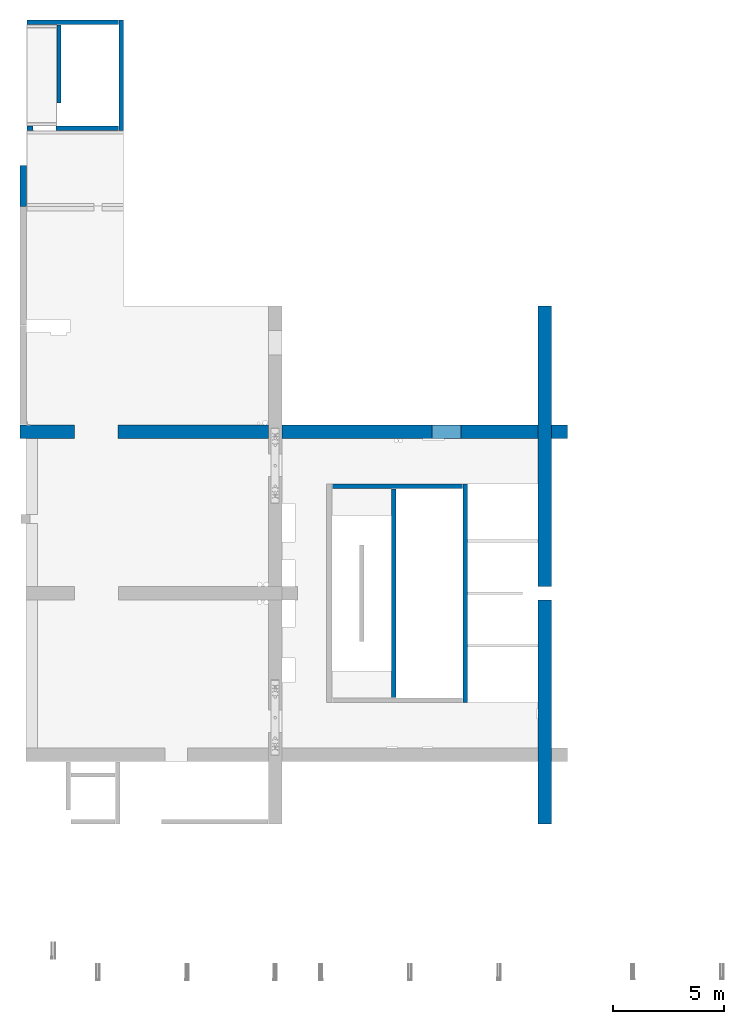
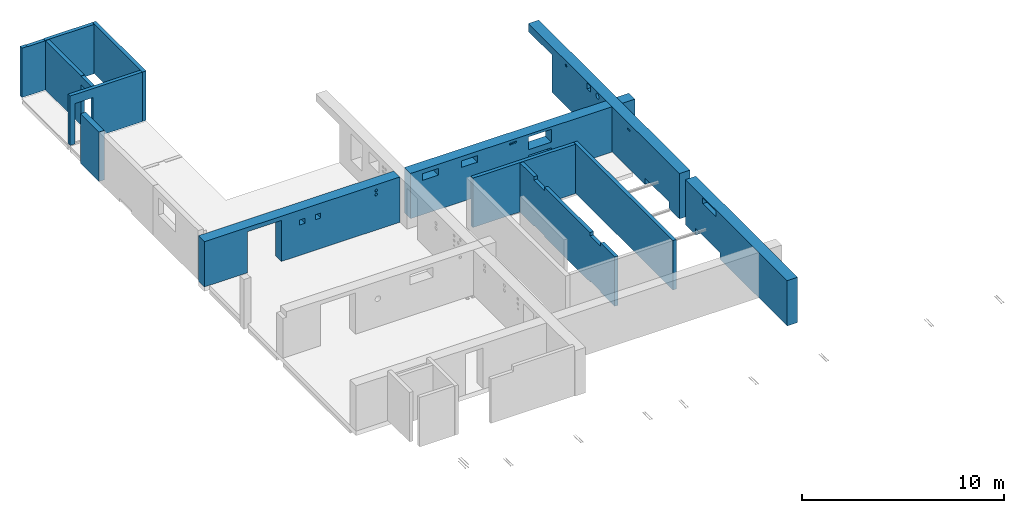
# One storey, part 5 of 8: 10 walls, 33 openings.
"""IFC2X3 building model written with IfcOpenShell, lengths in millimetres."""

from ifc_helpers import new_model, entity, si_unit, converted_unit, derived_unit, direction, frame, frame_2d, origin, origin_2d_with_axis, place, context, subcontext, project, spatial, rectangle, circle, extrude, faceted_brep, material, layer, layer_set, layer_usage, type_object, element, save


model = new_model("IFC2X3")

# Units and contexts
model_context = context("Model", 3, precision=0.01, world=origin(), true_north=direction((6.12303176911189e-17, 1.0)))
body_context = subcontext(model_context, "Body", "Model", "MODEL_VIEW")
ifc_project = project(units=[si_unit("LENGTHUNIT", "METRE", prefix="MILLI"), si_unit("AREAUNIT", "SQUARE_METRE"), si_unit("VOLUMEUNIT", "CUBIC_METRE"), converted_unit("PLANEANGLEUNIT", "DEGREE", entity("IfcRatioMeasure", 0.0174532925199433), si_unit("PLANEANGLEUNIT", "RADIAN"), dimensions=[0, 0, 0, 0, 0, 0, 0]), si_unit("MASSUNIT", "GRAM", prefix="KILO"), derived_unit("MASSDENSITYUNIT", [(si_unit("MASSUNIT", "GRAM", prefix="KILO"), 1), (si_unit("LENGTHUNIT", "METRE"), -3)]), si_unit("TIMEUNIT", "SECOND"), si_unit("FREQUENCYUNIT", "HERTZ"), si_unit("THERMODYNAMICTEMPERATUREUNIT", "DEGREE_CELSIUS"), derived_unit("THERMALTRANSMITTANCEUNIT", [(si_unit("MASSUNIT", "GRAM", prefix="KILO"), 1), (si_unit("THERMODYNAMICTEMPERATUREUNIT", "KELVIN"), -1), (si_unit("TIMEUNIT", "SECOND"), -3)]), derived_unit("VOLUMETRICFLOWRATEUNIT", [(si_unit("LENGTHUNIT", "METRE"), 3), (si_unit("TIMEUNIT", "SECOND"), -1)]), si_unit("ELECTRICCURRENTUNIT", "AMPERE"), si_unit("ELECTRICVOLTAGEUNIT", "VOLT"), si_unit("POWERUNIT", "WATT"), si_unit("FORCEUNIT", "NEWTON", prefix="KILO"), si_unit("ILLUMINANCEUNIT", "LUX"), si_unit("LUMINOUSFLUXUNIT", "LUMEN"), si_unit("LUMINOUSINTENSITYUNIT", "CANDELA"), derived_unit("USERDEFINED", [(si_unit("MASSUNIT", "GRAM", prefix="KILO"), -1), (si_unit("LENGTHUNIT", "METRE"), -2), (si_unit("TIMEUNIT", "SECOND"), 3), (si_unit("LUMINOUSFLUXUNIT", "LUMEN"), 1)]), derived_unit("LINEARVELOCITYUNIT", [(si_unit("LENGTHUNIT", "METRE"), 1), (si_unit("TIMEUNIT", "SECOND"), -1)]), si_unit("PRESSUREUNIT", "PASCAL"), derived_unit("USERDEFINED", [(si_unit("LENGTHUNIT", "METRE"), -2), (si_unit("MASSUNIT", "GRAM", prefix="KILO"), 1), (si_unit("TIMEUNIT", "SECOND"), -2)])], contexts=[model_context])

# Site, building, storey
site_placement = place(None, origin())
site = spatial("IfcSite", under=ifc_project, at=site_placement, Name="Default", CompositionType="ELEMENT")
building_placement = place(site_placement, origin())
building = spatial("IfcBuilding", under=site, at=building_placement, Name="niet gebruiken", CompositionType="ELEMENT")
storey_placement = place(building_placement, frame((0.0, 0.0, 3000.0)))
storey = spatial("IfcBuildingStorey", under=building, at=storey_placement, Name="00a eerste tussenverdieping", CompositionType="ELEMENT", Elevation=3000.00000000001)

# Wall, openings
ifc_material_1 = material(Name="NLRS_f2_beton ihwg")
ifc_layer_1 = layer(ifc_material_1, 600.0)
ifc_layer_set_1 = layer_set([ifc_layer_1], Name="Basic Wall:NLRS_22.21_WA_beton ihwg d=600_gen")
ifc_layer_usage_1 = layer_usage(ifc_layer_set_1, "AXIS2", "NEGATIVE", 300.0)
wall_type_1 = type_object("IfcWallType", Name="Basic Wall:NLRS_22.21_WA_beton ihwg d=600_gen", PredefinedType="STANDARD", material=ifc_layer_set_1)
wall_1_placement = place(storey_placement, frame((124250.0, 24750.0, -90.0)))
wall_1 = element("IfcWallStandardCase", 1, at=wall_1_placement, inside=storey, type_object=wall_type_1, material=ifc_layer_usage_1, Name="Basic Wall:NLRS_22.21_WA_beton ihwg d=600_gen", ObjectType="Basic Wall:NLRS_22.21_WA_beton ihwg d=600_gen", context=body_context, shape_type="SweptSolid", body=[
    extrude(rectangle(XDim=24564.0, YDim=600.000000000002, at=frame_2d((12282.0, 0.0), x_axis=(-1.0, 0.0))), origin(), (0.0, 0.0, 1.0), 2730.0),
])
opening_1_placement = place(storey_placement, frame((124250.0, 24750.0, -90.0)))
element("IfcOpeningElement", 2, at=opening_1_placement, cuts=wall_1, Name="Basic Wall:NLRS_22.21_WA_beton ihwg d=600_gen:1", ObjectType="Opening", context=body_context, shape_type="SweptSolid", body=[
    extrude(rectangle(XDim=2730.0, YDim=599.999999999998, at=origin_2d_with_axis()), frame((11150.0, 0.0, 1365.0), z_axis=(1.0, 0.0, 0.0), x_axis=(0.0, 0.0, -1.0)), (0.0, 0.0, 1.0), 600.000000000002),
])
opening_2_placement = place(storey_placement, frame((124250.0, 24750.0, -90.0)))
element("IfcOpeningElement", 3, at=opening_2_placement, cuts=wall_1, Name="Basic Wall:NLRS_22.21_WA_beton ihwg d=600_gen:2", ObjectType="Opening", context=body_context, shape_type="SweptSolid", body=[
    extrude(rectangle(XDim=2730.0, YDim=599.999999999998, at=frame_2d((0.0, 2.1600499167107e-12), x_axis=(1.0, 0.0))), frame((23250.0, 0.0, 1365.0), z_axis=(1.0, 0.0, 0.0), x_axis=(0.0, 0.0, -1.0)), (0.0, 0.0, 1.0), 600.000000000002),
])
opening_3_placement = place(wall_1_placement, origin())
element("IfcOpeningElement", 4, at=opening_3_placement, cuts=wall_1, Name="Basic Wall:NLRS_22.21_WA_beton ihwg d=600_gen", ObjectType="Opening", context=body_context, shape_type="SweptSolid", body=[
    extrude(rectangle(XDim=2475.0, YDim=1952.00000000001, at=frame_2d((0.0, -1.73372427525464e-11), x_axis=(1.0, 0.0))), frame((3416.0, -300.0, 1237.5), z_axis=(0.0, 1.0, 0.0), x_axis=(0.0, 0.0, -1.0)), (0.0, 0.0, 1.0), 600.000000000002),
])
opening_4_placement = place(wall_1_placement, origin())
element("IfcOpeningElement", 5, at=opening_4_placement, cuts=wall_1, Name="Basic Wall:NLRS_22.21_WA_beton ihwg d=600_gen", ObjectType="Opening", context=body_context, shape_type="SweptSolid", body=[
    extrude(circle(Radius=62.5, at=origin_2d_with_axis()), frame((17740.0, -300.0, 2520.0), z_axis=(0.0, 1.0, 0.0), x_axis=(1.0, 0.0, 0.0)), (0.0, 0.0, 1.0), 600.000000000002),
])
opening_5_placement = place(wall_1_placement, origin())
element("IfcOpeningElement", 6, at=opening_5_placement, cuts=wall_1, Name="Basic Wall:NLRS_22.21_WA_beton ihwg d=600_gen", ObjectType="Opening", context=body_context, shape_type="SweptSolid", body=[
    extrude(circle(Radius=62.5, at=origin_2d_with_axis()), frame((17450.0, -300.0, 2520.0), z_axis=(0.0, 1.0, 0.0), x_axis=(1.0, 0.0, 0.0)), (0.0, 0.0, 1.0), 600.000000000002),
])
opening_6_placement = place(wall_1_placement, origin())
element("IfcOpeningElement", 7, at=opening_6_placement, cuts=wall_1, Name="Basic Wall:NLRS_22.21_WA_beton ihwg d=600_gen", ObjectType="Opening", context=body_context, shape_type="SweptSolid", body=[
    extrude(circle(Radius=62.5, at=origin_2d_with_axis()), frame((17595.0, -300.0, 2520.0), z_axis=(0.0, 1.0, 0.0), x_axis=(1.0, 0.0, 0.0)), (0.0, 0.0, 1.0), 600.000000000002),
])
opening_7_placement = place(wall_1_placement, origin())
element("IfcOpeningElement", 8, at=opening_7_placement, cuts=wall_1, Name="Basic Wall:NLRS_22.21_WA_beton ihwg d=600_gen", ObjectType="Opening", context=body_context, shape_type="SweptSolid", body=[
    extrude(rectangle(XDim=400.0, YDim=900.000000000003, at=origin_2d_with_axis()), frame((15115.0, -300.0, 2275.0), z_axis=(0.0, 1.0, 0.0), x_axis=(0.0, 0.0, -1.0)), (0.0, 0.0, 1.0), 600.000000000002),
])
opening_8_placement = place(wall_1_placement, origin())
element("IfcOpeningElement", 9, at=opening_8_placement, cuts=wall_1, Name="Basic Wall:NLRS_22.21_WA_beton ihwg d=600_gen", ObjectType="Opening", context=body_context, shape_type="SweptSolid", body=[
    extrude(rectangle(XDim=400.0, YDim=900.000000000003, at=origin_2d_with_axis()), frame((12900.0, -300.0, 2275.0), z_axis=(0.0, 1.0, 0.0), x_axis=(0.0, 0.0, -1.0)), (0.0, 0.0, 1.0), 600.000000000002),
])
opening_9_placement = place(wall_1_placement, origin())
element("IfcOpeningElement", 10, at=opening_9_placement, cuts=wall_1, Name="Basic Wall:NLRS_22.21_WA_beton ihwg d=600_gen", ObjectType="Opening", context=body_context, shape_type="SweptSolid", body=[
    extrude(rectangle(XDim=775.0, YDim=1300.0, at=frame_2d((-5.40012479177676e-13, 8.69704308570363e-12), x_axis=(1.0, 0.0))), frame((19140.0, -300.0, 2192.5), z_axis=(0.0, 1.0, 0.0), x_axis=(0.0, 0.0, -1.0)), (0.0, 0.0, 1.0), 600.000000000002),
])
opening_10_placement = place(wall_1_placement, origin())
element("IfcOpeningElement", 11, at=opening_10_placement, cuts=wall_1, Name="Basic Wall:NLRS_22.21_WA_beton ihwg d=600_gen", ObjectType="Opening", context=body_context, shape_type="SweptSolid", body=[
    extrude(rectangle(XDim=300.000000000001, YDim=300.000000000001, at=frame_2d((-5.40012479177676e-13, 0.0), x_axis=(1.0, 0.0))), frame((6475.0, -300.0, 1990.0), z_axis=(0.0, 1.0, 0.0), x_axis=(0.0, 0.0, -1.0)), (0.0, 0.0, 1.0), 600.000000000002),
])
opening_11_placement = place(wall_1_placement, origin())
element("IfcOpeningElement", 12, at=opening_11_placement, cuts=wall_1, Name="Basic Wall:NLRS_22.21_WA_beton ihwg d=600_gen", ObjectType="Opening", context=body_context, shape_type="SweptSolid", body=[
    extrude(rectangle(XDim=300.000000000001, YDim=300.000000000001, at=frame_2d((-5.40012479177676e-13, 0.0), x_axis=(1.0, 0.0))), frame((5575.0, -300.0, 1990.0), z_axis=(0.0, 1.0, 0.0), x_axis=(0.0, 0.0, -1.0)), (0.0, 0.0, 1.0), 600.000000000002),
])
opening_12_placement = place(wall_1_placement, origin())
element("IfcOpeningElement", 13, at=opening_12_placement, cuts=wall_1, Name="Basic Wall:NLRS_22.21_WA_beton ihwg d=600_gen", ObjectType="Opening", context=body_context, shape_type="SweptSolid", body=[
    extrude(circle(Radius=80.0, at=origin_2d_with_axis()), frame((9800.0, -300.0, 2140.0), z_axis=(0.0, 1.0, 0.0), x_axis=(1.0, 0.0, 0.0)), (0.0, 0.0, 1.0), 600.000000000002),
])
opening_13_placement = place(wall_1_placement, origin())
element("IfcOpeningElement", 14, at=opening_13_placement, cuts=wall_1, Name="Basic Wall:NLRS_22.21_WA_beton ihwg d=600_gen", ObjectType="Opening", context=body_context, shape_type="SweptSolid", body=[
    extrude(circle(Radius=80.0, at=origin_2d_with_axis()), frame((9800.0, -300.0, 2385.0), z_axis=(0.0, 1.0, 0.0), x_axis=(1.0, 0.0, 0.0)), (0.0, 0.0, 1.0), 600.000000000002),
])
opening_14_placement = place(wall_1_placement, origin())
element("IfcOpeningElement", 15, at=opening_14_placement, cuts=wall_1, Name="Basic Wall:NLRS_22.21_WA_beton ihwg d=600_gen", ObjectType="Opening", context=body_context, shape_type="SweptSolid", body=[
    extrude(rectangle(XDim=350.0, YDim=1300.0, at=frame_2d((2.70006239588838e-13, 8.69704308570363e-12), x_axis=(1.0, 0.0))), frame((19140.0, -300.0, 1289.99998699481), z_axis=(0.0, 1.0, 0.0), x_axis=(0.0, 0.0, -1.0)), (0.0, 0.0, 1.0), 600.000000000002),
])

ifc_layer_usage_2 = layer_usage(ifc_layer_set_1, "AXIS2", "NEGATIVE", 300.0)
wall_2_placement = place(storey_placement, frame((147800.0, 7150.0, -90.0), z_axis=(0.0, 0.0, 1.0), x_axis=(0.0, 1.0, 0.0)))
wall_2 = element("IfcWallStandardCase", 16, at=wall_2_placement, inside=storey, type_object=wall_type_1, material=ifc_layer_usage_2, Name="Basic Wall:NLRS_22.21_WA_beton ihwg d=600_gen", ObjectType="Basic Wall:NLRS_22.21_WA_beton ihwg d=600_gen", context=body_context, shape_type="SweptSolid", body=[
    extrude(rectangle(XDim=25580.000000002, YDim=600.000000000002, at=frame_2d((12790.000000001, 0.0), x_axis=(-1.0, 0.0))), origin(), (0.0, 0.0, 1.0), 2730.0),
])
opening_15_placement = place(storey_placement, frame((147800.0, 7150.0, -90.0), z_axis=(0.0, 0.0, 1.0), x_axis=(0.0, 1.0, 0.0)))
element("IfcOpeningElement", 17, at=opening_15_placement, cuts=wall_2, Name="Basic Wall:NLRS_22.21_WA_beton ihwg d=600_gen:1", ObjectType="Opening", context=body_context, shape_type="SweptSolid", body=[
    extrude(rectangle(XDim=2730.0, YDim=600.000000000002, at=origin_2d_with_axis()), frame((10050.0, 0.0, 1365.0), z_axis=(1.0, 0.0, 0.0), x_axis=(0.0, 0.0, -1.0)), (0.0, 0.0, 1.0), 600.0),
])
opening_16_placement = place(wall_2_placement, origin())
element("IfcOpeningElement", 18, at=opening_16_placement, cuts=wall_2, Name="Basic Wall:NLRS_22.21_WA_beton ihwg d=600_gen", ObjectType="Opening", context=body_context, shape_type="SweptSolid", body=[
    extrude(rectangle(XDim=3560.0, YDim=2410.0, at=frame_2d((0.0, -1.13686837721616e-12), x_axis=(1.0, 0.0))), frame((7837.50000000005, -300.0, -1380.0), z_axis=(0.0, 1.0, 0.0), x_axis=(0.0, 0.0, -1.0)), (0.0, 0.0, 1.0), 600.000000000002),
])
opening_17_placement = place(wall_2_placement, origin())
element("IfcOpeningElement", 19, at=opening_17_placement, cuts=wall_2, Name="Basic Wall:NLRS_22.21_WA_beton ihwg d=600_gen", ObjectType="Opening", context=body_context, shape_type="SweptSolid", body=[
    extrude(rectangle(XDim=3560.0, YDim=2410.0, at=frame_2d((0.0, 1.13686837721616e-12), x_axis=(1.0, 0.0))), frame((12862.5, -300.0, -1380.0), z_axis=(0.0, 1.0, 0.0), x_axis=(0.0, 0.0, -1.0)), (0.0, 0.0, 1.0), 600.000000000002),
])
opening_18_placement = place(wall_2_placement, origin())
element("IfcOpeningElement", 20, at=opening_18_placement, cuts=wall_2, Name="Basic Wall:NLRS_22.21_WA_beton ihwg d=600_gen", ObjectType="Opening", context=body_context, shape_type="SweptSolid", body=[
    extrude(circle(Radius=80.0, at=origin_2d_with_axis()), frame((21850.0, -300.0, 2450.0), z_axis=(0.0, 1.0, 0.0), x_axis=(1.0, 0.0, 0.0)), (0.0, 0.0, 1.0), 600.000000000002),
])
opening_19_placement = place(wall_2_placement, origin())
element("IfcOpeningElement", 21, at=opening_19_placement, cuts=wall_2, Name="Basic Wall:NLRS_22.21_WA_beton ihwg d=600_gen", ObjectType="Opening", context=body_context, shape_type="SweptSolid", body=[
    extrude(rectangle(XDim=100.0, YDim=240.000000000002, at=frame_2d((-5.43565192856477e-13, -2.16715534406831e-12), x_axis=(1.0, 0.0))), frame((15650.0, -300.0, 2340.0), z_axis=(0.0, 1.0, 0.0), x_axis=(0.0, 0.0, -1.0)), (0.0, 0.0, 1.0), 600.000000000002),
])
opening_20_placement = place(wall_2_placement, origin())
element("IfcOpeningElement", 22, at=opening_20_placement, cuts=wall_2, Name="Basic Wall:NLRS_22.21_WA_beton ihwg d=600_gen", ObjectType="Opening", context=body_context, shape_type="SweptSolid", body=[
    extrude(circle(Radius=157.5, at=frame_2d((0.0, -1.08286712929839e-12), x_axis=(1.0, 0.0))), frame((18740.0, -300.0, 2490.0), z_axis=(0.0, 1.0, 0.0), x_axis=(1.0, 0.0, 0.0)), (0.0, 0.0, 1.0), 600.000000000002),
])
opening_21_placement = place(wall_2_placement, origin())
element("IfcOpeningElement", 23, at=opening_21_placement, cuts=wall_2, Name="Basic Wall:NLRS_22.21_WA_beton ihwg d=600_gen", ObjectType="Opening", context=body_context, shape_type="SweptSolid", body=[
    extrude(rectangle(XDim=350.000000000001, YDim=1300.0, at=frame_2d((0.0, 1.08002495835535e-12), x_axis=(1.0, 0.0))), frame((7695.0, -300.0, 2490.0), z_axis=(0.0, 1.0, 0.0), x_axis=(0.0, 0.0, -1.0)), (0.0, 0.0, 1.0), 600.000000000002),
])
opening_22_placement = place(wall_2_placement, origin())
element("IfcOpeningElement", 24, at=opening_22_placement, cuts=wall_2, Name="Basic Wall:NLRS_22.21_WA_beton ihwg d=600_gen", ObjectType="Opening", context=body_context, shape_type="SweptSolid", body=[
    extrude(rectangle(XDim=350.000000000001, YDim=350.000000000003, at=frame_2d((0.0, 2.1600499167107e-12), x_axis=(1.0, 0.0))), frame((19590.0, -300.0, 2490.0), z_axis=(0.0, 1.0, 0.0), x_axis=(0.0, 0.0, -1.0)), (0.0, 0.0, 1.0), 600.000000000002),
])
opening_23_placement = place(wall_2_placement, origin())
element("IfcOpeningElement", 25, at=opening_23_placement, cuts=wall_2, Name="Basic Wall:NLRS_22.21_WA_beton ihwg d=600_gen", ObjectType="Opening", context=body_context, shape_type="SweptSolid", body=[
    extrude(rectangle(XDim=2255.0, YDim=2330.00004027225, at=frame_2d((-2.1600499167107e-12, 1.70530256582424e-12), x_axis=(0.0, 1.0))), frame((24415.0, 300.0, 1127.5), z_axis=(0.0, -1.0, 0.0), x_axis=(1.0, 0.0, 0.0)), (0.0, 0.0, 1.0), 600.0),
])

# Wall, opening
ifc_material_2 = material(Name="NLRS_f2_beton prefab")
ifc_layer_2 = layer(ifc_material_2, 200.0)
ifc_layer_set_2 = layer_set([ifc_layer_2], Name="Basic Wall:NLRS_22.21_WA_beton prefab d=200_gen")
ifc_layer_usage_3 = layer_usage(ifc_layer_set_2, "AXIS2", "NEGATIVE", 100.0)
wall_type_2 = type_object("IfcWallType", Name="Basic Wall:NLRS_22.21_WA_beton prefab d=200_gen", PredefinedType="STANDARD", material=ifc_layer_set_2)
wall_3_placement = place(storey_placement, frame((124570.0, 43130.0, -50.0)))
wall_3 = element("IfcWallStandardCase", 26, at=wall_3_placement, inside=storey, type_object=wall_type_2, material=ifc_layer_usage_3, Name="Basic Wall:NLRS_22.21_WA_beton prefab d=200_gen", ObjectType="Basic Wall:NLRS_22.21_WA_beton prefab d=200_gen", context=body_context, shape_type="SweptSolid", body=[
    extrude(rectangle(XDim=4109.99999999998, YDim=200.000000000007, at=frame_2d((2054.99999999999, -2.55795384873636e-12), x_axis=(-1.0, 0.0))), origin(), (0.0, 0.0, 1.0), 2980.0),
])
opening_24_placement = place(wall_3_placement, origin())
element("IfcOpeningElement", 27, at=opening_24_placement, cuts=wall_3, Name="Basic Wall:NLRS_22.21_WA_beton prefab d=200_gen", ObjectType="Opening", context=body_context, shape_type="SweptSolid", body=[
    extrude(rectangle(XDim=19.9999999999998, YDim=1028.00000000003, at=frame_2d((0.0, 8.64019966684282e-12), x_axis=(1.0, 0.0))), frame((816.0, -100.0, 2970.0), z_axis=(0.0, 1.0, 0.0), x_axis=(0.0, 0.0, -1.0)), (0.0, 0.0, 1.0), 200.000000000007),
])

# Wall, openings
ifc_layer_usage_4 = layer_usage(ifc_layer_set_2, "AXIS2", "NEGATIVE", 100.0)
wall_4_placement = place(storey_placement, frame((124570.0, 38370.0, -50.0)))
wall_4 = element("IfcWallStandardCase", 28, at=wall_4_placement, inside=storey, type_object=wall_type_2, material=ifc_layer_usage_4, Name="Basic Wall:NLRS_22.21_WA_beton prefab d=200_gen", ObjectType="Basic Wall:NLRS_22.21_WA_beton prefab d=200_gen", context=body_context, shape_type="SweptSolid", body=[
    extrude(rectangle(XDim=4109.99999999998, YDim=199.999999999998, at=frame_2d((2054.99999999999, -3.90798504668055e-13), x_axis=(-1.0, 0.0))), origin(), (0.0, 0.0, 1.0), 2980.0),
])
opening_25_placement = place(wall_4_placement, origin())
element("IfcOpeningElement", 29, at=opening_25_placement, cuts=wall_4, Name="Basic Wall:NLRS_22.21_WA_beton prefab d=200_gen", ObjectType="Opening", context=body_context, shape_type="SweptSolid", body=[
    extrude(rectangle(XDim=2435.0, YDim=1015.99999999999, at=frame_2d((-5.6843418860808e-13, 8.66862137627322e-12), x_axis=(1.0, 0.0))), frame((784.0, -100.0, 1217.50000000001), z_axis=(0.0, 1.0, 0.0), x_axis=(0.0, 0.0, -1.0)), (0.0, 0.0, 1.0), 199.999999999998),
])
opening_26_placement = place(wall_4_placement, frame((264.0, -100.0, 0.0)))
element("IfcOpeningElement", 30, at=opening_26_placement, cuts=wall_4, Name="Basic Wall:NLRS_22.21_WA_beton prefab d=200_gen", ObjectType="Opening", context=body_context, shape_type="Brep", body=[
    faceted_brep([(12.0, 0.0, 2435.0), (12.0, 0.0, 0.0), (1028.0, 0.0, 0.0), (1028.0, 0.0, 2435.0), (0.0, 200.0, 2447.0), (1040.0, 200.0, 2447.0), (1040.0, 200.0, 0.0), (0.0, 200.0, 0.0)], [[[0, 1, 2, 3]], [[4, 5, 6, 7]], [[4, 0, 3, 5]], [[5, 3, 2, 6]], [[6, 2, 1, 7]], [[7, 1, 0, 4]]]),
])

ifc_layer_usage_5 = layer_usage(ifc_layer_set_2, "AXIS2", "NEGATIVE", 100.0)
wall_5_placement = place(storey_placement, frame((126000.0, 38490.0, -50.0), z_axis=(0.0, 0.0, 1.0), x_axis=(0.0, 1.0, 0.0)))
wall_5 = element("IfcWallStandardCase", 31, at=wall_5_placement, inside=storey, type_object=wall_type_2, material=ifc_layer_usage_5, Name="Basic Wall:NLRS_22.21_WA_beton prefab d=200_gen", ObjectType="Basic Wall:NLRS_22.21_WA_beton prefab d=200_gen", context=body_context, shape_type="SweptSolid", body=[
    extrude(rectangle(XDim=4520.00000000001, YDim=199.999999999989, at=frame_2d((2260.0, 0.0), x_axis=(-1.0, 0.0))), origin(), (0.0, 0.0, 1.0), 2980.0),
])
opening_27_placement = place(wall_5_placement, origin())
element("IfcOpeningElement", 32, at=opening_27_placement, cuts=wall_5, Name="Basic Wall:NLRS_22.21_WA_beton prefab d=200_gen", ObjectType="Opening", context=body_context, shape_type="SweptSolid", body=[
    extrude(rectangle(XDim=2435.0, YDim=1026.0, at=frame_2d((-5.6843418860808e-13, 2.1600499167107e-12), x_axis=(1.0, 0.0))), frame((493.0, -100.0, 1217.50000000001), z_axis=(0.0, 1.0, 0.0), x_axis=(0.0, 0.0, -1.0)), (0.0, 0.0, 1.0), 199.999999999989),
])
opening_28_placement = place(wall_5_placement, frame((-32.0, 100.0, 0.0)))
element("IfcOpeningElement", 33, at=opening_28_placement, cuts=wall_5, Name="Basic Wall:NLRS_22.21_WA_beton prefab d=200_gen", ObjectType="Opening", context=body_context, shape_type="Brep", body=[
    faceted_brep([(12.0, 0.0, 2435.0), (1038.0, 0.0, 2435.0), (1038.0, 0.0, 0.0), (12.0, 0.0, 0.0), (0.0, -200.0, 2447.0), (0.0, -200.0, 0.0), (1050.0, -200.0, 0.0), (1050.0, -200.0, 2447.0)], [[[0, 1, 2, 3]], [[4, 5, 6, 7]], [[4, 7, 1, 0]], [[7, 6, 2, 1]], [[6, 5, 3, 2]], [[5, 4, 0, 3]]]),
])
opening_29_placement = place(wall_5_placement, origin())
element("IfcOpeningElement", 34, at=opening_29_placement, cuts=wall_5, Name="Basic Wall:NLRS_22.21_WA_beton prefab d=200_gen", ObjectType="Opening", context=body_context, shape_type="SweptSolid", body=[
    extrude(rectangle(XDim=19.9999999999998, YDim=1017.99999999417, at=origin_2d_with_axis()), frame((509.0, -100.0, 2970.0), z_axis=(0.0, 1.0, 0.0), x_axis=(0.0, 0.0, -1.0)), (0.0, 0.0, 1.0), 199.999999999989),
])

# Walls
ifc_layer_usage_6 = layer_usage(ifc_layer_set_2, "AXIS2", "NEGATIVE", 100.0)
wall_6_placement = place(storey_placement, frame((128800.0, 38270.0, -50.0), z_axis=(0.0, 0.0, 1.0), x_axis=(0.0, 1.0, 0.0)))
element("IfcWallStandardCase", 35, at=wall_6_placement, inside=storey, type_object=wall_type_2, material=ifc_layer_usage_6, Name="Basic Wall:NLRS_22.21_WA_beton prefab d=200_gen", ObjectType="Basic Wall:NLRS_22.21_WA_beton prefab d=200_gen", context=body_context, shape_type="SweptSolid", body=[
    extrude(rectangle(XDim=4960.0, YDim=199.999999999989, at=frame_2d((2480.0, 0.0), x_axis=(-1.0, 0.0))), origin(), (0.0, 0.0, 1.0), 2980.0),
])
ifc_layer_usage_7 = layer_usage(ifc_layer_set_2, "AXIS2", "NEGATIVE", 100.0)
wall_7_placement = place(storey_placement, frame((144230.0, 22400.0, -50.0), z_axis=(0.0, 0.0, 1.0), x_axis=(0.0, -1.0, 0.0)))
element("IfcWallStandardCase", 36, at=wall_7_placement, inside=storey, type_object=wall_type_2, material=ifc_layer_usage_7, Name="Basic Wall:NLRS_22.21_WA_beton prefab d=200_gen", ObjectType="Basic Wall:NLRS_22.21_WA_beton prefab d=200_gen", context=body_context, shape_type="SweptSolid", body=[
    extrude(rectangle(XDim=9800.0, YDim=199.999999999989, at=frame_2d((4900.0, -3.69482222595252e-13), x_axis=(-1.0, 0.0))), origin(), (0.0, 0.0, 1.0), 2980.0),
])

# Wall, openings
ifc_layer_usage_8 = layer_usage(ifc_layer_set_2, "AXIS2", "NEGATIVE", 100.0)
wall_8_placement = place(storey_placement, frame((141030.0, 22180.0, -50.0), z_axis=(0.0, 0.0, 1.0), x_axis=(0.0, -1.0, 0.0)))
wall_8 = element("IfcWallStandardCase", 37, at=wall_8_placement, inside=storey, type_object=wall_type_2, material=ifc_layer_usage_8, Name="Basic Wall:NLRS_22.21_WA_beton prefab d=200_gen", ObjectType="Basic Wall:NLRS_22.21_WA_beton prefab d=200_gen", context=body_context, shape_type="SweptSolid", body=[
    extrude(rectangle(XDim=9360.0, YDim=199.999999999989, at=frame_2d((4680.0, -2.8421709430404e-14), x_axis=(-1.0, 0.0))), origin(), (0.0, 0.0, 1.0), 2980.0),
])
opening_30_placement = place(wall_8_placement, origin())
element("IfcOpeningElement", 38, at=opening_30_placement, cuts=wall_8, Name="Basic Wall:NLRS_22.21_WA_beton prefab d=200_gen", ObjectType="Opening", context=body_context, shape_type="SweptSolid", body=[
    extrude(rectangle(XDim=70.0000000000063, YDim=1044.0, at=frame_2d((2.70006239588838e-13, 2.1600499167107e-12), x_axis=(1.0, 0.0))), frame((7452.0, -100.0, 35.0), z_axis=(0.0, 1.0, 0.0), x_axis=(0.0, 0.0, -1.0)), (0.0, 0.0, 1.0), 199.999999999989),
])
opening_31_placement = place(wall_8_placement, origin())
element("IfcOpeningElement", 39, at=opening_31_placement, cuts=wall_8, Name="Basic Wall:NLRS_22.21_WA_beton prefab d=200_gen", ObjectType="Opening", context=body_context, shape_type="SweptSolid", body=[
    extrude(rectangle(XDim=70.0000000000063, YDim=1044.0, at=frame_2d((2.70006239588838e-13, 2.1600499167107e-12), x_axis=(1.0, 0.0))), frame((1908.0, -100.0, 35.0), z_axis=(0.0, 1.0, 0.0), x_axis=(0.0, 0.0, -1.0)), (0.0, 0.0, 1.0), 199.999999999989),
])
opening_32_placement = place(wall_8_placement, origin())
element("IfcOpeningElement", 40, at=opening_32_placement, cuts=wall_8, Name="Basic Wall:NLRS_22.21_WA_beton prefab d=200_gen", ObjectType="Opening", context=body_context, shape_type="SweptSolid", body=[
    extrude(rectangle(XDim=200.0, YDim=1044.0, at=frame_2d((0.0, 2.1600499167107e-12), x_axis=(1.0, 0.0))), frame((7452.0, -100.0, 2880.0), z_axis=(0.0, 1.0, 0.0), x_axis=(0.0, 0.0, -1.0)), (0.0, 0.0, 1.0), 199.999999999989),
])
opening_33_placement = place(wall_8_placement, origin())
element("IfcOpeningElement", 41, at=opening_33_placement, cuts=wall_8, Name="Basic Wall:NLRS_22.21_WA_beton prefab d=200_gen", ObjectType="Opening", context=body_context, shape_type="SweptSolid", body=[
    extrude(rectangle(XDim=200.0, YDim=1044.0, at=frame_2d((0.0, 2.1600499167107e-12), x_axis=(1.0, 0.0))), frame((1908.0, -100.0, 2880.0), z_axis=(0.0, 1.0, 0.0), x_axis=(0.0, 0.0, -1.0)), (0.0, 0.0, 1.0), 199.999999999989),
])

# Walls
ifc_layer_usage_9 = layer_usage(ifc_layer_set_2, "AXIS2", "NEGATIVE", 100.0)
wall_9_placement = place(storey_placement, frame((138270.0, 22300.0, -50.0)))
element("IfcWallStandardCase", 42, at=wall_9_placement, inside=storey, type_object=wall_type_2, material=ifc_layer_usage_9, Name="Basic Wall:NLRS_22.21_WA_beton prefab d=200_gen", ObjectType="Basic Wall:NLRS_22.21_WA_beton prefab d=200_gen", context=body_context, shape_type="SweptSolid", body=[
    extrude(rectangle(XDim=5840.00000000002, YDim=199.999999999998, at=frame_2d((2920.00000000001, -7.60280727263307e-13), x_axis=(-1.0, 0.0))), origin(), (0.0, 0.0, 1.0), 2980.0),
])
ifc_layer_3 = layer(ifc_material_2, 300.0)
ifc_layer_set_3 = layer_set([ifc_layer_3], Name="Basic Wall:NLRS_22.21_WA_beton prefab d=300_gen")
ifc_layer_usage_10 = layer_usage(ifc_layer_set_3, "AXIS2", "NEGATIVE", 150.0)
wall_type_3 = type_object("IfcWallType", Name="Basic Wall:NLRS_22.21_WA_beton prefab d=300_gen", PredefinedType="STANDARD", material=ifc_layer_set_3)
wall_10_placement = place(storey_placement, frame((124400.0, 34870.0, -50.0), z_axis=(0.0, 0.0, 1.0), x_axis=(0.0, 1.0, 0.0)))
element("IfcWallStandardCase", 43, at=wall_10_placement, inside=storey, type_object=wall_type_3, material=ifc_layer_usage_10, Name="Basic Wall:NLRS_22.21_WA_beton prefab d=300_gen", ObjectType="Basic Wall:NLRS_22.21_WA_beton prefab d=300_gen", context=body_context, shape_type="SweptSolid", body=[
    extrude(rectangle(XDim=1830.0, YDim=300.000000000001, at=frame_2d((915.000000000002, 0.0), x_axis=(-1.0, 0.0))), origin(), (0.0, 0.0, 1.0), 2980.0),
])

save(model, "model.ifc")
